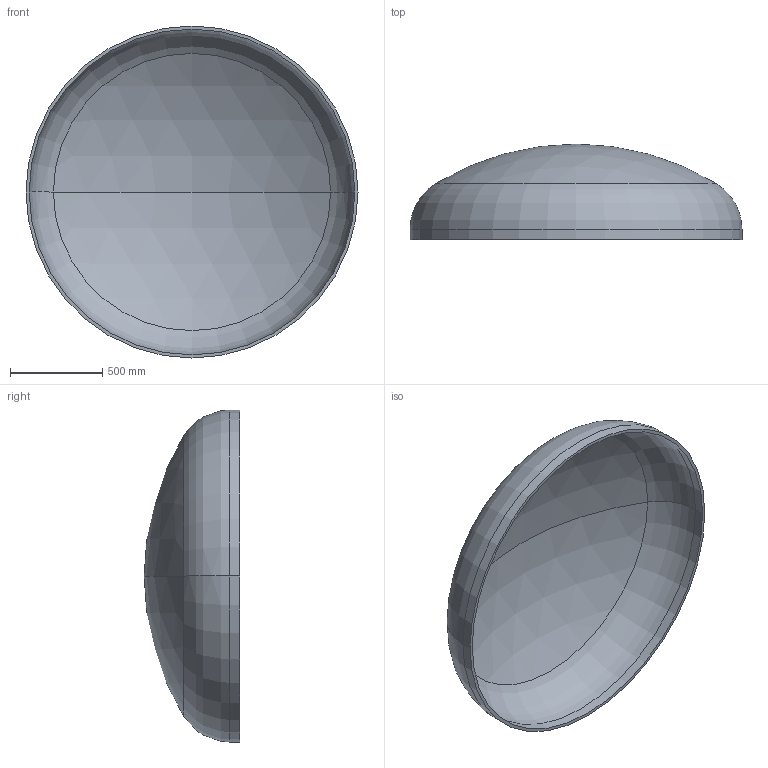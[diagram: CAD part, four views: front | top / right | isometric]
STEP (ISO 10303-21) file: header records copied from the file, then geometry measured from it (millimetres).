
FILE_DESCRIPTION (( 'STEP AP203' ), '1' );
FILE_NAME ('DIN 28013 Korbbogenform_-_Boden DIN 28013 - 1800 x 55 - I - s=17.step', '2016-07-01T12:19:22', ( '' ), ( '' ), 'SwSTEP 2.0', 'SolidWorks 2013', '' );
FILE_SCHEMA (( 'CONFIG_CONTROL_DESIGN' ));
Length unit declared in the file: millimetre
Products named in the file (1): DIN 28013 Korbbogenform_-_Boden DIN 28013 - 1800 x 55 - I - s=17
Bounding box: 1800 x 518.24 x 1800 mm (x, y, z)
Volume: 64315844.7 mm3; surface area: 7662397.2 mm2
Topology: 1 solids, 1 shells, 13 faces, 24 edges, 14 vertices
Faces by surface type: torus 4, cylinder 4, sphere 4, plane 1
Entity records: 407 total; most frequent: DIRECTION 72, CARTESIAN_POINT 52, ORIENTED_EDGE 48, AXIS2_PLACEMENT_3D 34, EDGE_CURVE 24, CIRCLE 20, VERTEX_POINT 14, EDGE_LOOP 14
